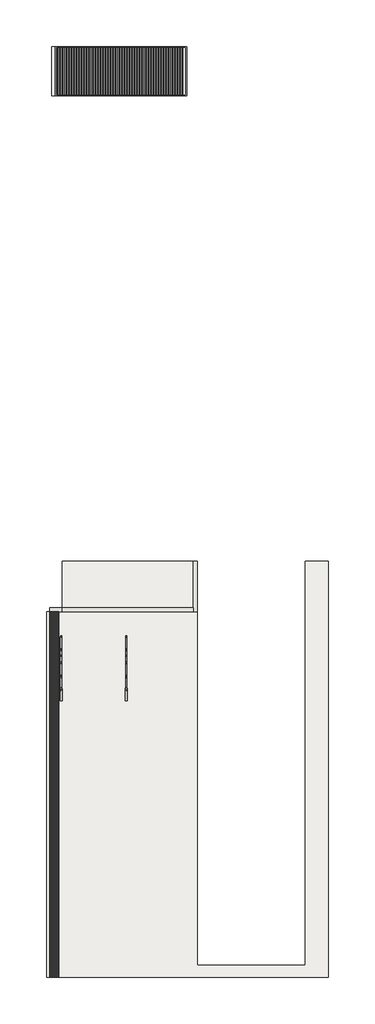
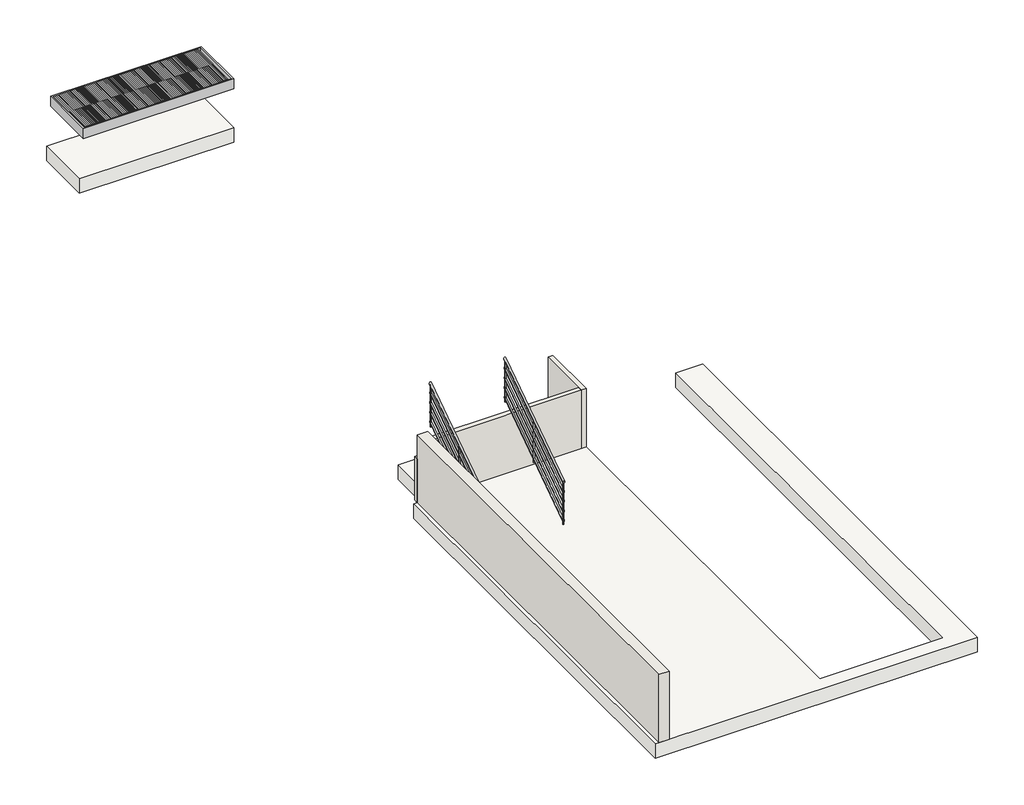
# One storey: 3 walls, 2 railings, 2 slabs, 1 proxy.
"""IFC4 building model written with IfcOpenShell, lengths in millimetres."""

from ifc_helpers import new_model, si_unit, frame, origin, place, context, project, spatial, polyline, outline, extrude, faceted_brep, transform, mapped, element, save
from components import griglia_griglia_b5ae9a58, railing_900mm_pipe_83fa4486, railing_900mm_pipe_2c63970b

model = new_model("IFC4")

# Units and contexts
model_context = context("Model", 3, world=origin())
ifc_project = project(units=[si_unit("LENGTHUNIT", "METRE", prefix="MILLI")], contexts=[model_context])

# Site, building, storey
site = spatial("IfcSite", under=ifc_project)
building = spatial("IfcBuilding", under=site)
storey = spatial("IfcBuildingStorey", under=building, Name="Teren_uroven", Elevation=-1500.0)

# Proxy
placement = place(None, origin())
griglia_griglia_shape = griglia_griglia_b5ae9a58(model_context)
element("IfcBuildingElementProxy", 1, Name="Griglia : Griglia", ObjectType="Griglia : Griglia", at=placement, inside=storey, context=model_context, shape_type="MappedRepresentation", body=[
    mapped(griglia_griglia_shape, transform((0.0, 0.0, 0.0), x_axis=(1.0, 0.0, 0.0), y_axis=(0.0, 1.0, 0.0), z_axis=(0.0, 0.0, 1.0))),
])

# Railings
railing_900mm_pipe_shape = railing_900mm_pipe_83fa4486(model_context)
element("IfcRailing", 2, ObjectType="900mm Pipe", at=placement, inside=storey, context=model_context, shape_type="MappedRepresentation", body=[
    mapped(railing_900mm_pipe_shape, transform((0.0, 0.0, 0.0), x_axis=(1.0, 0.0, 0.0), y_axis=(0.0, 1.0, 0.0), z_axis=(0.0, 0.0, 1.0))),
])
railing_900mm_pipe_2_shape = railing_900mm_pipe_2c63970b(model_context)
element("IfcRailing", 3, ObjectType="900mm Pipe", at=placement, inside=storey, context=model_context, shape_type="MappedRepresentation", body=[
    mapped(railing_900mm_pipe_2_shape, transform((0.0, 0.0, 0.0), x_axis=(1.0, 0.0, 0.0), y_axis=(0.0, 1.0, 0.0), z_axis=(0.0, 0.0, 1.0))),
])

# Slabs
element("IfcSlab", 4, ObjectType="Generic 300mm", at=placement, inside=storey, context=model_context, shape_type="Brep", body=[
    faceted_brep([(-8133.3266822, -15042.8878347, -1800.0), (-8133.3266822, -6901.7671527, -1800.0), (-7783.3266822, -6901.7671527, -1800.0), (-7783.3266822, -5776.7671527, -1800.0), (-4979.3266822, -5776.7671527, -1800.0), (-4779.3266822, -5776.7671527, -1800.0), (-4779.3266822, -14776.7671527, -1800.0), (-2379.3266822, -14776.7671527, -1800.0), (-2379.3266822, -5776.7671527, -1800.0), (-2179.3266822, -5776.7671527, -1800.0), (-1861.8266822, -5776.7671527, -1800.0), (-1861.8266822, -15042.8878347, -1800.0), (-8133.3266822, -15042.8878347, -1500.0), (-1861.8266822, -15042.8878347, -1500.0), (-1861.8266822, -5776.7671527, -1500.0), (-2379.3266822, -5776.7671527, -1500.0), (-2379.3266822, -14776.7671527, -1500.0), (-4779.3266822, -14776.7671527, -1500.0), (-4779.3266822, -6901.7671527, -1500.0), (-4779.3266822, -5776.7671527, -1500.0), (-4869.3266822, -5776.7671527, -1500.0), (-7783.3266822, -5776.7671527, -1500.0), (-7783.3266822, -6901.7671527, -1500.0), (-8133.3266822, -6901.7671527, -1500.0)], [[[0, 1, 2, 3, 4, 5, 6, 7, 8, 9, 10, 11]], [[12, 13, 14, 15, 16, 17, 18, 19, 20, 21, 22, 23]], [[1, 0, 12, 23]], [[2, 1, 23, 22]], [[3, 2, 22, 21]], [[5, 4, 3, 21, 20, 19]], [[6, 5, 19, 18, 17]], [[7, 6, 17, 16]], [[8, 7, 16, 15]], [[10, 9, 8, 15, 14]], [[11, 10, 14, 13]], [[0, 11, 13, 12]]]),
])
element("IfcSlab", 5, ObjectType="Generic 300mm", at=placement, inside=storey, context=model_context, shape_type="SweptSolid", body=[
    extrude(outline(polyline([(-5011.8266822, 4573.2328473), (-8018.3266822, 4573.2328473), (-8018.3266822, 5673.2328473), (-5011.8266822, 5673.2328473), (-5011.8266822, 4573.2328473)])), frame((0.0, 0.0, -2100.0), z_axis=(0.0, 0.0, 1.0), x_axis=(1.0, 0.0, 0.0)), (0.0, 0.0, 1.0), 300.0),
])

# Walls
element("IfcWall", 6, ObjectType="Generic - 200mm", at=placement, inside=storey, context=model_context, shape_type="Brep", body=[
    faceted_brep([(-8061.8266822, -6901.7671527, -1500.0), (-8061.8266822, -15042.8878347, -1500.0), (-8061.8266822, -15042.8878347, -100.0), (-8061.8266822, -6901.7671527, -100.0), (-8061.8266822, -6901.7671527, -600.0), (-7861.8266822, -6901.7671527, -1500.0), (-7861.8266822, -6901.7671527, -100.0), (-7861.8266822, -15042.8878347, -100.0), (-7861.8266822, -15042.8878347, -1500.0)], [[[0, 1, 2, 3, 4]], [[5, 6, 7, 8]], [[1, 0, 5, 8]], [[2, 1, 8, 7]], [[3, 2, 7, 6]], [[0, 4, 3, 6, 5]]]),
])
element("IfcWall", 7, ObjectType="Generic - 90mm Brick", at=placement, inside=storey, context=model_context, shape_type="Brep", body=[
    faceted_brep([(-4869.3266822, -5776.7671527, -1500.0), (-4869.3266822, -6811.7671527, -1500.0), (-4869.3266822, -6901.7671527, -1500.0), (-4869.3266822, -6901.7671527, -300.0), (-4869.3266822, -6811.7671527, -300.0), (-4869.3266822, -5776.7671527, -300.0), (-4779.3266822, -5776.7671527, -1500.0), (-4779.3266822, -5776.7671527, -300.0), (-4779.3266822, -6901.7671527, -300.0), (-4779.3266822, -6901.7671527, -1500.0)], [[[0, 1, 2, 3, 4, 5]], [[6, 7, 8, 9]], [[2, 1, 0, 6, 9]], [[3, 2, 9, 8]], [[0, 5, 7, 6]], [[5, 4, 3, 8, 7]]]),
])
element("IfcWall", 8, ObjectType="Generic - 90mm Brick", at=placement, inside=storey, context=model_context, shape_type="Brep", body=[
    faceted_brep([(-4869.3266822, -6811.7671527, -1500.0), (-8061.8266822, -6811.7671527, -1500.0), (-8061.8266822, -6811.7671527, -600.0), (-7783.3266822, -6811.7671527, -600.0), (-7783.3266822, -6811.7671527, -300.0), (-4869.3266822, -6811.7671527, -300.0), (-4869.3266822, -6901.7671527, -1500.0), (-4869.3266822, -6901.7671527, -300.0), (-7783.3266822, -6901.7671527, -300.0), (-7783.3266822, -6901.7671527, -600.0), (-8061.8266822, -6901.7671527, -600.0), (-8061.8266822, -6901.7671527, -1500.0), (-7861.8266822, -6901.7671527, -1500.0)], [[[0, 1, 2, 3, 4, 5]], [[6, 7, 8, 9, 10, 11, 12]], [[1, 0, 6, 12, 11]], [[2, 1, 11, 10]], [[0, 5, 7, 6]], [[3, 2, 10, 9]], [[3, 9, 8, 4]], [[5, 4, 8, 7]]]),
])

save(model, "model.ifc")
